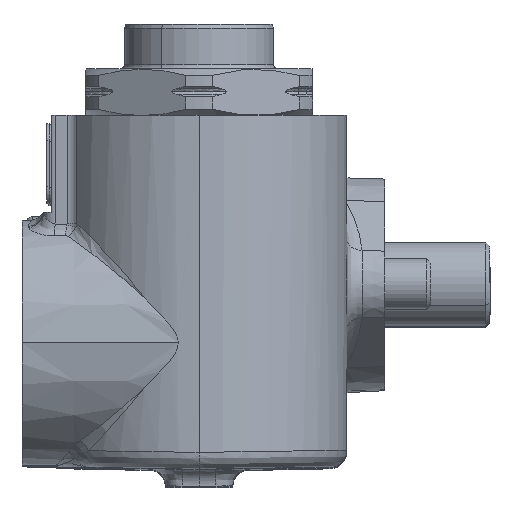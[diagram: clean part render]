
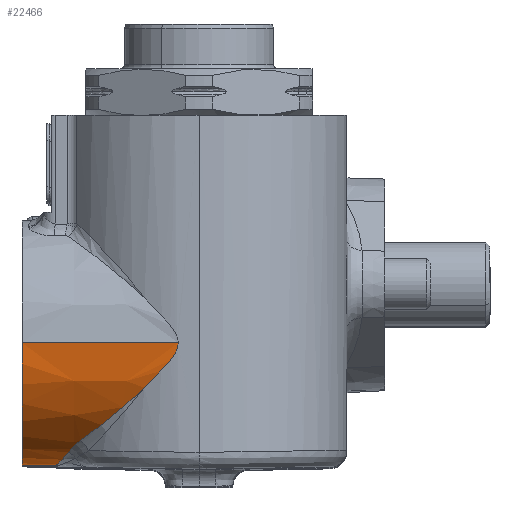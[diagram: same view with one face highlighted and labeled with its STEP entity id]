
A CAD part, top view. The second image highlights one B-rep face of the part: STEP entity #22466.
In plain terms, the highlighted conical face has half-angle 1 degrees and reference radius 14.5 mm.
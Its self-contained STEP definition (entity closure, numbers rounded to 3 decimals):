
#534 = ORIENTED_EDGE ( 'NONE', *, *, #18189, .T. ) ;
#1318 = CARTESIAN_POINT ( 'NONE',  ( 1.093, -10.752, 70.803 ) ) ;
#1668 = CARTESIAN_POINT ( 'NONE',  ( -7.469, -18.149, 66.002 ) ) ;
#2164 = DIRECTION ( 'NONE',  ( 1., 0., 0. ) ) ;
#2290 = CARTESIAN_POINT ( 'NONE',  ( -10.236, -20.861, 61.068 ) ) ;
#2397 = EDGE_CURVE ( 'NONE', #5405, #36703, #39681, .T. ) ;
#2979 = VECTOR ( 'NONE', #34395, 1000. ) ;
#4346 = CARTESIAN_POINT ( 'NONE',  ( -15., -7., 56.5 ) ) ;
#4384 = CARTESIAN_POINT ( 'NONE',  ( -4.98, -16.236, 67.923 ) ) ;
#4594 = VECTOR ( 'NONE', #14485, 1000. ) ;
#5085 = CARTESIAN_POINT ( 'NONE',  ( -17., -21.465, 56.5 ) ) ;
#5299 = CARTESIAN_POINT ( 'NONE',  ( -9.159, -19.535, 64.002 ) ) ;
#5405 = VERTEX_POINT ( 'NONE', #20856 ) ;
#5805 = CARTESIAN_POINT ( 'NONE',  ( -11.01, -21.534, 57.672 ) ) ;
#6480 = CARTESIAN_POINT ( 'NONE',  ( -15., -7., 71. ) ) ;
#7328 = CIRCLE ( 'NONE', #23326, 14.5 ) ;
#7636 = B_SPLINE_CURVE_WITH_KNOTS ( 'NONE', 3,
 ( #36060, #1668, #27066, #32904, #4384, #39760, #18773, #18342, #31236, #25205 ),
 .UNSPECIFIED., .F., .F.,
 ( 4, 2, 2, 2, 4 ),
 ( 0., 0.003, 0.006, 0.008, 0.011 ),
 .UNSPECIFIED. ) ;
#9049 = ORIENTED_EDGE ( 'NONE', *, *, #2397, .F. ) ;
#9355 = CARTESIAN_POINT ( 'NONE',  ( -11.103, -21.568, 57.088 ) ) ;
#9408 = EDGE_CURVE ( 'NONE', #36338, #5405, #31692, .T. ) ;
#11058 = VERTEX_POINT ( 'NONE', #29478 ) ;
#11059 = CARTESIAN_POINT ( 'NONE',  ( 2.228, -9.501, 71.09 ) ) ;
#11272 = CARTESIAN_POINT ( 'NONE',  ( 3.519, -7.29, 71.323 ) ) ;
#11519 = FACE_OUTER_BOUND ( 'NONE', #19371, .T. ) ;
#11545 = CARTESIAN_POINT ( 'NONE',  ( -9.36, -19.768, 63.595 ) ) ;
#13157 = CONICAL_SURFACE ( 'NONE', #39088, 14.5, 0.017 ) ;
#14021 = CARTESIAN_POINT ( 'NONE',  ( -11.198, -21.566, 56.5 ) ) ;
#14197 = CARTESIAN_POINT ( 'NONE',  ( -0.08, -11.94, 70.415 ) ) ;
#14453 = DIRECTION ( 'NONE',  ( 0., 0., 1. ) ) ;
#14485 = DIRECTION ( 'NONE',  ( -1., 0.017, 0. ) ) ;
#14820 = CARTESIAN_POINT ( 'NONE',  ( 2.586, -9.06, 71.165 ) ) ;
#14986 = CARTESIAN_POINT ( 'NONE',  ( -9.89, -20.47, 62.134 ) ) ;
#16684 = ORIENTED_EDGE ( 'NONE', *, *, #19800, .T. ) ;
#17644 = CARTESIAN_POINT ( 'NONE',  ( -8.055, -18.576, 65.432 ) ) ;
#17987 = CARTESIAN_POINT ( 'NONE',  ( 0.313, -11.549, 70.555 ) ) ;
#18189 = EDGE_CURVE ( 'NONE', #22538, #36703, #7636, .T. ) ;
#18342 = CARTESIAN_POINT ( 'NONE',  ( -1.754, -13.532, 69.72 ) ) ;
#18563 = CARTESIAN_POINT ( 'NONE',  ( -10.396, -21.028, 60.517 ) ) ;
#18773 = CARTESIAN_POINT ( 'NONE',  ( -3.048, -14.656, 69.076 ) ) ;
#18887 = EDGE_CURVE ( 'NONE', #19677, #11058, #27047, .T. ) ;
#19264 = CARTESIAN_POINT ( 'NONE',  ( -8.055, -18.576, 65.432 ) ) ;
#19371 = EDGE_LOOP ( 'NONE', ( #30443, #16684, #30911, #27703, #28478, #534, #9049 ) ) ;
#19677 = VERTEX_POINT ( 'NONE', #14021 ) ;
#19800 = EDGE_CURVE ( 'NONE', #36338, #20870, #7328, .T. ) ;
#20856 = CARTESIAN_POINT ( 'NONE',  ( 3.519, -7., 71.323 ) ) ;
#20870 = VERTEX_POINT ( 'NONE', #22525 ) ;
#20882 = CARTESIAN_POINT ( 'NONE',  ( -0.474, -12.326, 70.259 ) ) ;
#21241 = B_SPLINE_CURVE_WITH_KNOTS ( 'NONE', 3,
 ( #39670, #11545, #5299, #29938, #26783, #17644 ),
 .UNSPECIFIED., .F., .F.,
 ( 4, 2, 4 ),
 ( 0., 0.002, 0.003 ),
 .UNSPECIFIED. ) ;
#21901 = CARTESIAN_POINT ( 'NONE',  ( -9.52, -19.989, 63.157 ) ) ;
#22115 = CARTESIAN_POINT ( 'NONE',  ( -10.798, -21.398, 58.826 ) ) ;
#22466 = ADVANCED_FACE ( 'NONE', ( #11519 ), #13157, .T. ) ;
#22525 = CARTESIAN_POINT ( 'NONE',  ( -15., -21.5, 56.5 ) ) ;
#22538 = VERTEX_POINT ( 'NONE', #19264 ) ;
#23326 = AXIS2_PLACEMENT_3D ( 'NONE', #4346, #38707, #32868 ) ;
#23999 = CARTESIAN_POINT ( 'NONE',  ( 2.043, -9.715, 71.048 ) ) ;
#24994 = CARTESIAN_POINT ( 'NONE',  ( -10.678, -21.297, 59.395 ) ) ;
#25205 = CARTESIAN_POINT ( 'NONE',  ( -0.474, -12.326, 70.259 ) ) ;
#26783 = CARTESIAN_POINT ( 'NONE',  ( -8.383, -18.815, 65.113 ) ) ;
#27047 = B_SPLINE_CURVE_WITH_KNOTS ( 'NONE', 3,
 ( #34341, #9355, #5805, #22115, #24994, #18563, #2290, #14986, #31245, #21901 ),
 .UNSPECIFIED., .F., .F.,
 ( 4, 2, 2, 2, 4 ),
 ( 0., 0.002, 0.004, 0.005, 0.007 ),
 .UNSPECIFIED. ) ;
#27066 = CARTESIAN_POINT ( 'NONE',  ( -6.863, -17.695, 66.523 ) ) ;
#27163 = CARTESIAN_POINT ( 'NONE',  ( -15., -7., 56.5 ) ) ;
#27703 = ORIENTED_EDGE ( 'NONE', *, *, #18887, .T. ) ;
#28478 = ORIENTED_EDGE ( 'NONE', *, *, #39156, .T. ) ;
#29478 = CARTESIAN_POINT ( 'NONE',  ( -9.52, -19.989, 63.157 ) ) ;
#29938 = CARTESIAN_POINT ( 'NONE',  ( -8.672, -19.06, 64.76 ) ) ;
#30256 = CARTESIAN_POINT ( 'NONE',  ( 3.519, -7., 71.323 ) ) ;
#30443 = ORIENTED_EDGE ( 'NONE', *, *, #9408, .F. ) ;
#30460 = CARTESIAN_POINT ( 'NONE',  ( 3.225, -8.108, 71.279 ) ) ;
#30667 = CARTESIAN_POINT ( 'NONE',  ( 2.76, -8.831, 71.198 ) ) ;
#30911 = ORIENTED_EDGE ( 'NONE', *, *, #40225, .F. ) ;
#31236 = CARTESIAN_POINT ( 'NONE',  ( -1.107, -12.947, 70.006 ) ) ;
#31245 = CARTESIAN_POINT ( 'NONE',  ( -9.704, -20.245, 62.651 ) ) ;
#31692 = LINE ( 'NONE', #6480, #2979 ) ;
#32653 = CARTESIAN_POINT ( 'NONE',  ( -0.474, -12.326, 70.259 ) ) ;
#32868 = DIRECTION ( 'NONE',  ( 0., 0., -1. ) ) ;
#32904 = CARTESIAN_POINT ( 'NONE',  ( -5.619, -16.739, 67.483 ) ) ;
#33623 = LINE ( 'NONE', #5085, #4594 ) ;
#34341 = CARTESIAN_POINT ( 'NONE',  ( -11.198, -21.566, 56.5 ) ) ;
#34395 = DIRECTION ( 'NONE',  ( 1., 0., 0.017 ) ) ;
#36060 = CARTESIAN_POINT ( 'NONE',  ( -8.055, -18.576, 65.432 ) ) ;
#36338 = VERTEX_POINT ( 'NONE', #38130 ) ;
#36688 = CARTESIAN_POINT ( 'NONE',  ( 1.48, -10.346, 70.91 ) ) ;
#36703 = VERTEX_POINT ( 'NONE', #32653 ) ;
#36886 = CARTESIAN_POINT ( 'NONE',  ( 3.448, -7.576, 71.313 ) ) ;
#38130 = CARTESIAN_POINT ( 'NONE',  ( -15., -7., 71. ) ) ;
#38707 = DIRECTION ( 'NONE',  ( 1., 0., 0. ) ) ;
#39088 = AXIS2_PLACEMENT_3D ( 'NONE', #27163, #2164, #14453 ) ;
#39156 = EDGE_CURVE ( 'NONE', #11058, #22538, #21241, .T. ) ;
#39670 = CARTESIAN_POINT ( 'NONE',  ( -9.52, -19.989, 63.157 ) ) ;
#39681 = B_SPLINE_CURVE_WITH_KNOTS ( 'NONE', 3,
 ( #30256, #11272, #36886, #30460, #39798, #30667, #14820, #11059, #23999, #36688, #1318, #17987, #14197, #20882 ),
 .UNSPECIFIED., .F., .F.,
 ( 4, 2, 2, 2, 2, 2, 4 ),
 ( 0.023, 0.024, 0.025, 0.026, 0.026, 0.028, 0.03 ),
 .UNSPECIFIED. ) ;
#39760 = CARTESIAN_POINT ( 'NONE',  ( -3.695, -15.195, 68.718 ) ) ;
#39798 = CARTESIAN_POINT ( 'NONE',  ( 3.08, -8.355, 71.255 ) ) ;
#40225 = EDGE_CURVE ( 'NONE', #19677, #20870, #33623, .T. ) ;
